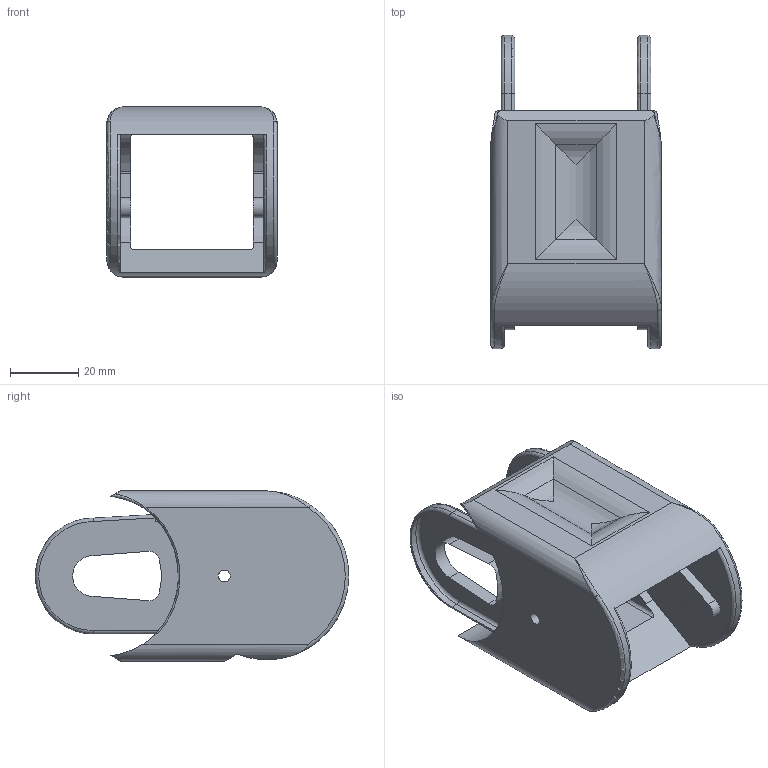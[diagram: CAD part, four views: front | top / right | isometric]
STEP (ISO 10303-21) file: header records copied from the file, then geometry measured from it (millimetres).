
FILE_DESCRIPTION((''),'2;1');
FILE_NAME('C:\Uebbing\PARAMETERKETTEN\PFR\PFR 221\PFR 221 Glied R100.stp','2012-03-30T08:16:41',('Uebbing'),(''),'Autodesk Inventor 10','Autodesk Inventor 10','');
FILE_SCHEMA(('AUTOMOTIVE_DESIGN { 1 0 10303 214 1 1 1 1 }'));
Length unit declared in the file: millimetre
Products named in the file (1): PFR 221 Glied R100
Bounding box: 50 x 92 x 50 mm (x, y, z)
Volume: 56467.6 mm3; surface area: 25197.8 mm2
Topology: 1 solids, 1 shells, 112 faces, 300 edges, 190 vertices
Faces by surface type: bspline 50, cylinder 31, plane 25, torus 6
Full cylindrical faces by diameter (mm): 3.5 x1
Entity records: 5284 total; most frequent: CARTESIAN_POINT 2644, ORIENTED_EDGE 592, DIRECTION 480, EDGE_CURVE 296, VERTEX_POINT 190, AXIS2_PLACEMENT_3D 169, VECTOR 142, LINE 142
